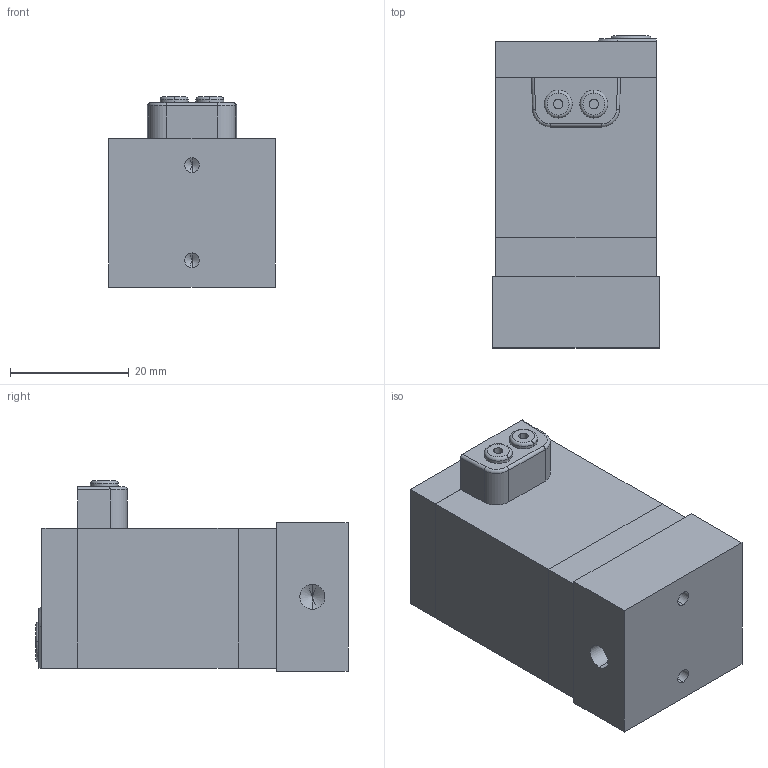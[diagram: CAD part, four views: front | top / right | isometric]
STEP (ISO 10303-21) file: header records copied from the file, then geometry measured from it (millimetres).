
FILE_DESCRIPTION (( 'STEP AP203' ), '1' );
FILE_NAME ('SS231-M5-#L#.STEP', '2016-08-01T03:16:39', ( '' ), ( '' ), 'SwSTEP 2.0', 'SolidWorks 2014', '' );
FILE_SCHEMA (( 'CONFIG_CONTROL_DESIGN' ));
Length unit declared in the file: millimetre
Products named in the file (8): PCS2406-8; SS231-1; PCS2406-9; SS231-M5-#L#; PC6-M3; L2; PCS2406-7-L
Assembly tree (8 placements, depth 3):
  SS231-M5-#L#
    SS231-1
    L2
      PCS2406-8
      PCS2406-9
      PC6-M3  x2
      PCS2406-7-L
    (unnamed)
Bounding box: 28 x 52.5 x 32 mm (x, y, z)
Volume: 34095.2 mm3; surface area: 11880.9 mm2
Topology: 7 solids, 7 shells, 165 faces, 390 edges, 240 vertices
Faces by surface type: plane 81, cylinder 35, cone 27, torus 16, sphere 6
Entity records: 4580 total; most frequent: DIRECTION 704, CARTESIAN_POINT 658, ORIENTED_EDGE 592, EDGE_CURVE 296, AXIS2_PLACEMENT_3D 275, VERTEX_POINT 189, LINE 154, VECTOR 154
